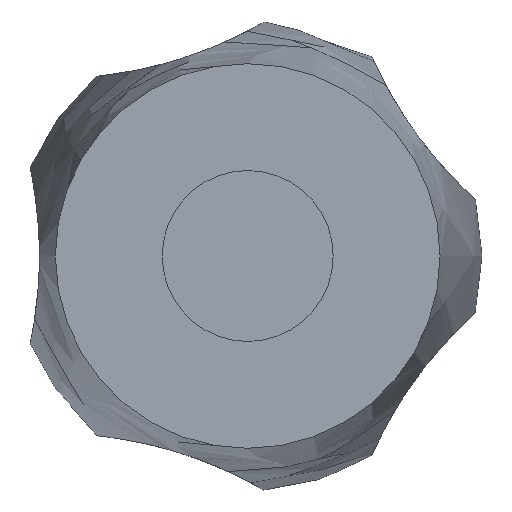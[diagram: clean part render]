
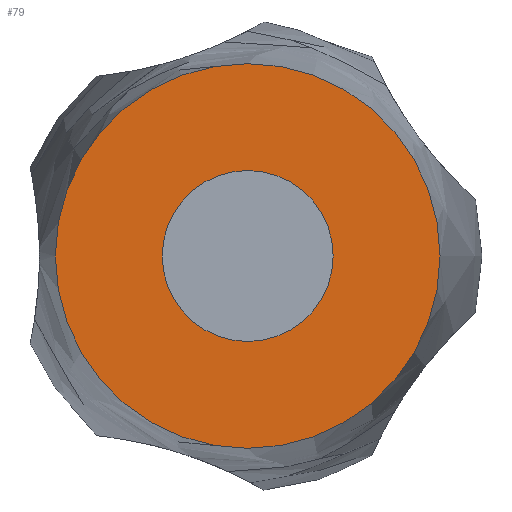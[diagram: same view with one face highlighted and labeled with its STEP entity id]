
A CAD part, left-side view. The second image highlights one B-rep face of the part: STEP entity #79.
In plain terms, the highlighted planar face has unit normal (-1, 0, 0).
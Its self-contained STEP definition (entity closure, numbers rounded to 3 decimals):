
#79 = ADVANCED_FACE( '', ( #96, #97 ), #98, .F. );
#96 = FACE_BOUND( '', #127, .T. );
#97 = FACE_OUTER_BOUND( '', #128, .T. );
#98 = PLANE( '', #129 );
#127 = EDGE_LOOP( '', ( #200 ) );
#128 = EDGE_LOOP( '', ( #201 ) );
#129 = AXIS2_PLACEMENT_3D( '', #202, #203, #204 );
#200 = ORIENTED_EDGE( '', *, *, #236, .F. );
#201 = ORIENTED_EDGE( '', *, *, #237, .T. );
#202 = CARTESIAN_POINT( '', ( 0., -9., 0. ) );
#203 = DIRECTION( '', ( 1., 0., 0. ) );
#204 = DIRECTION( '', ( 0., 1., 0. ) );
#236 = EDGE_CURVE( '', #249, #249, #250, .T. );
#237 = EDGE_CURVE( '', #251, #251, #252, .T. );
#249 = VERTEX_POINT( '', #484 );
#250 = CIRCLE( '', #485, 4. );
#251 = VERTEX_POINT( '', #486 );
#252 = CIRCLE( '', #487, 9. );
#484 = CARTESIAN_POINT( '', ( 0., -4., 0. ) );
#485 = AXIS2_PLACEMENT_3D( '', #810, #811, #812 );
#486 = CARTESIAN_POINT( '', ( 0., -9., 0. ) );
#487 = AXIS2_PLACEMENT_3D( '', #813, #814, #815 );
#810 = CARTESIAN_POINT( '', ( 0., 0., 0. ) );
#811 = DIRECTION( '', ( -1., 0., 0. ) );
#812 = DIRECTION( '', ( 0., -1., 0. ) );
#813 = CARTESIAN_POINT( '', ( 0., 0., 0. ) );
#814 = DIRECTION( '', ( -1., 0., 0. ) );
#815 = DIRECTION( '', ( 0., -1., 0. ) );
